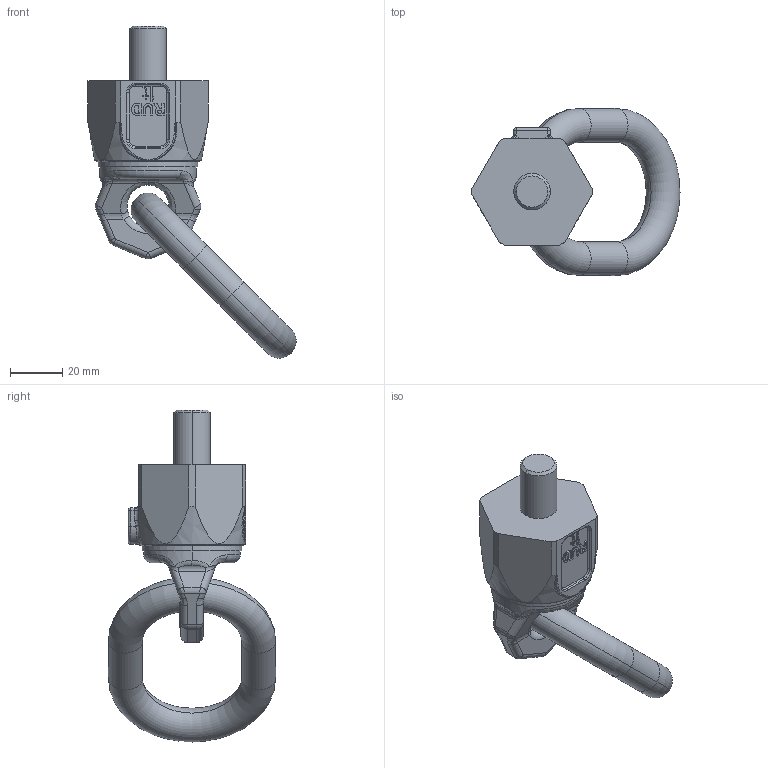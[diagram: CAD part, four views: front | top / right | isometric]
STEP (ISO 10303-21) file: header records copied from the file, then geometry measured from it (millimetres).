
FILE_DESCRIPTION((''),'2;1');
FILE_NAME('001-M32371-P-10_ASM','2018-05-09T',('Anja.Joas'),(''),'PRO/ENGINEER BY PARAMETRIC TECHNOLOGY CORPORATION, 2011490','PRO/ENGINEER BY PARAMETRIC TECHNOLOGY CORPORATION, 2011490','');
FILE_SCHEMA(('CONFIG_CONTROL_DESIGN'));
Length unit declared in the file: millimetre
Products named in the file (5): 001-M31523-P-60_AF0; 001-M31527-P-2; 001-M09397-P-40_AF0; 001-M09397-P-3; 001-M32371-P-10_ASM
Assembly tree (4 placements, depth 2):
  001-M32371-P-10_ASM
    001-M31523-P-60_AF0
    001-M31527-P-2
    001-M09397-P-40_AF0
    001-M09397-P-3
Bounding box: 79.68 x 64 x 127.18 mm (x, y, z)
Volume: 89626.2 mm3; surface area: 23702.1 mm2
Topology: 4 solids, 4 shells, 612 faces, 1628 edges, 1047 vertices
Faces by surface type: plane 441, cylinder 75, bspline 59, torus 29, cone 5, sphere 2, extrusion 1
Entity records: 21981 total; most frequent: CARTESIAN_POINT 6976, ORIENTED_EDGE 3256, DIRECTION 2834, EDGE_CURVE 1628, VECTOR 1276, LINE 1275, VERTEX_POINT 1047, AXIS2_PLACEMENT_3D 779
